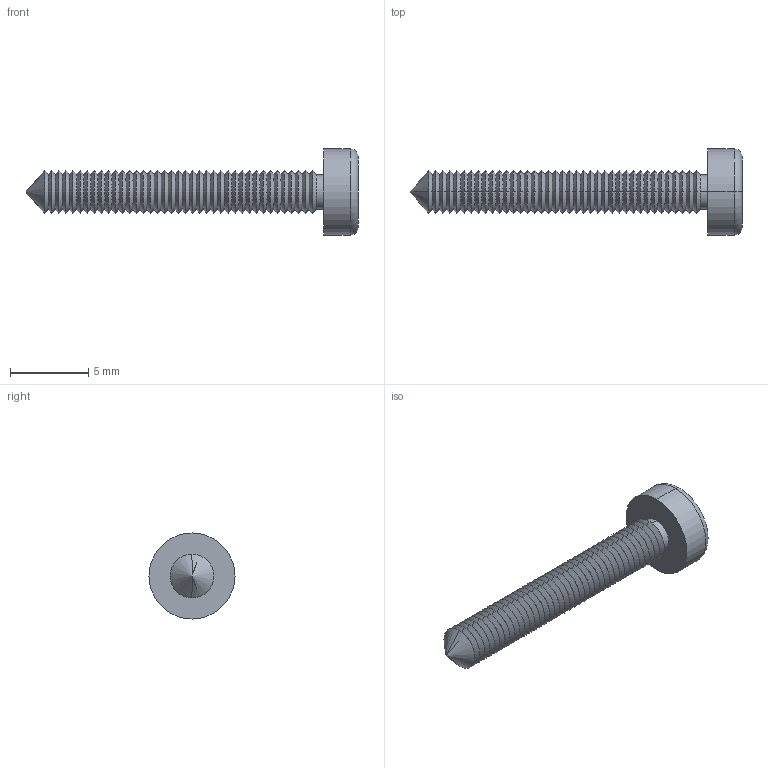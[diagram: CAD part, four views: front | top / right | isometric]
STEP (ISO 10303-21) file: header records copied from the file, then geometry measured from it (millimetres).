
FILE_DESCRIPTION (( 'STEP AP214' ), '1' );
FILE_NAME ('Cargol 2,9x 19 PP104.STEP', '2017-11-24T15:21:58', ( 'aaa' ), ( '' ), 'SwSTEP 2.0', 'SolidWorks 2013', '' );
FILE_SCHEMA (( 'AUTOMOTIVE_DESIGN' ));
Length unit declared in the file: millimetre
Products named in the file (1): Cargol 2,9x 19 PP104
Bounding box: 21.2 x 5.5 x 5.5 mm (x, y, z)
Volume: 140.3 mm3; surface area: 319.6 mm2
Topology: 1 solids, 1 shells, 177 faces, 364 edges, 189 vertices
Faces by surface type: cone 156, plane 15, cylinder 4, torus 2
Entity records: 4540 total; most frequent: DIRECTION 884, CARTESIAN_POINT 729, ORIENTED_EDGE 724, EDGE_CURVE 362, AXIS2_PLACEMENT_3D 344, VECTOR 196, LINE 196, VERTEX_POINT 189
